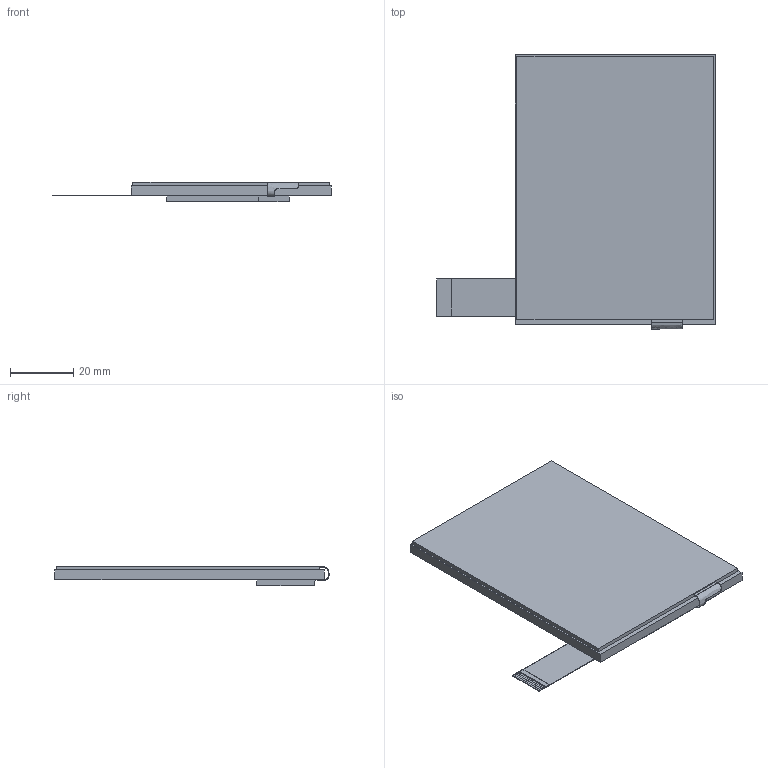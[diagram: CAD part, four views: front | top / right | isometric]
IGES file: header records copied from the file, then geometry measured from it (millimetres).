
Start section: SolidWorks IGES file using analytic representation for surfaces
Global section: file name: E:\SVN_Working_Folder\proddev\cfa_10065\trunk\hardware\PADS_CAD\ref\CFAF480640B035TTS.IGS; native system: SolidWorks 2015; preprocessor: SolidWorks 2015; author: brian; date: 150504.102426; units: millimetre
Bounding box: 88.5 x 87 x 6.33 mm (x, y, z)
Surface area: 24900.3 mm2 (no closed solid volume)
Topology: 0 solids, 0 shells, 550 faces, 2933 edges, 2933 vertices
Faces by surface type: bspline 538, revolution 12
